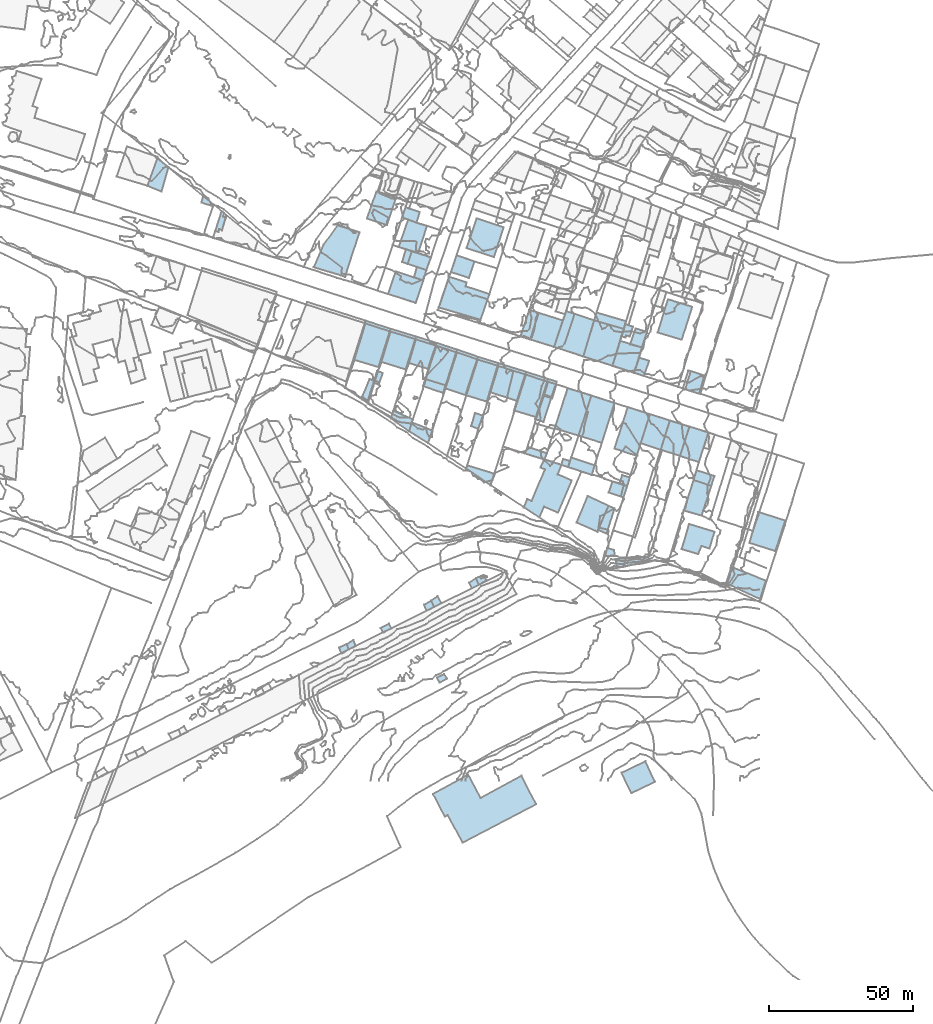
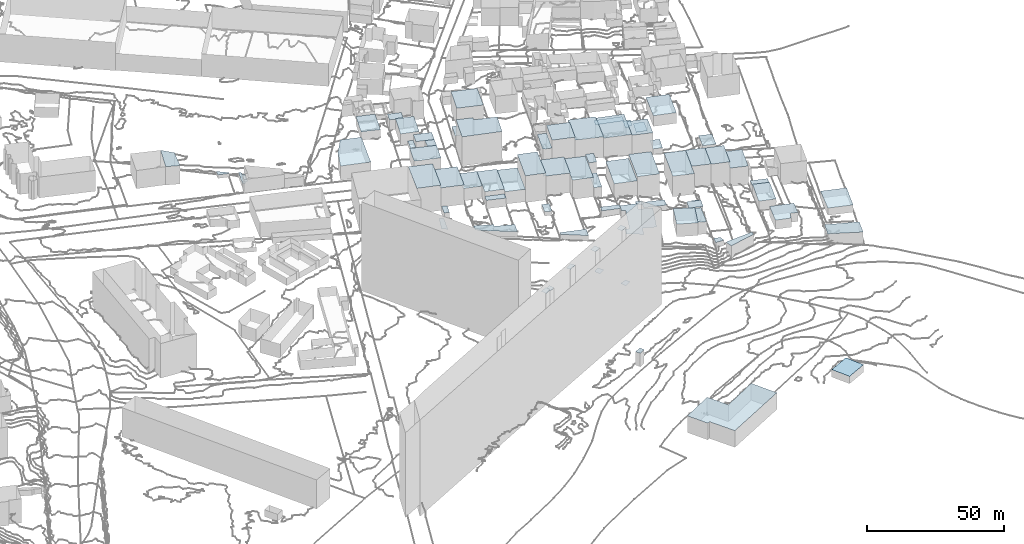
# Not in any storey, part 76 of 419: 72 roofs.
"""IFC2X3 model written with IfcOpenShell, lengths in metres."""

from ifc_helpers import new_model, si_unit, frame, origin_with_axes, place, context, subcontext, project, faceted_brep, element, save


model = new_model("IFC2X3")

# Units and contexts
model_context = context("Model", 3, precision=1e-05, world=origin_with_axes())
body_context = subcontext(model_context, "Body", "Model", "MODEL_VIEW")
ifc_project = project(units=[si_unit("AREAUNIT", "SQUARE_METRE"), si_unit("LENGTHUNIT", "METRE")], contexts=[model_context])

# Roofs
roof_1_placement = place(None, frame((922.9920204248, 76.0976909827, 71.5996003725), z_axis=(0.0, 0.0, 1.0), x_axis=(1.0, 0.0, 0.0)))
element("IfcRoof", 1, at=roof_1_placement, Name="Toiture 0", ShapeType="NOTDEFINED", context=body_context, shape_type="Brep", body=[
    faceted_brep([(0.7999999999, 2.7999999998, 2.4003996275), (0.0, 0.0, 2.4003996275), (3.4, 0.0, 2.4003996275), (3.2, 2.0999999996, 2.4003996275)], [[[0, 1, 2]], [[2, 3, 0]]]),
])
roof_2_placement = place(None, frame((928.6920204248, 152.1976909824, 73.6711987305), z_axis=(0.0, 0.0, 1.0), x_axis=(1.0, 0.0, 0.0)))
element("IfcRoof", 2, at=roof_2_placement, Name="Toiture 0", ShapeType="NOTDEFINED", context=body_context, shape_type="Brep", body=[
    faceted_brep([(0.9, 2.5, 3.5288012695), (0.0, 0.0, 3.5288012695), (1.5, -0.3999999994, 3.5288012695), (1.7000000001, 0.2999999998, 3.5288012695), (2.9, 0.0, 3.5288012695), (4.0, 3.2999999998, 3.5288012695), (1.3, 4.2000000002, 3.5288012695)], [[[0, 1, 2]], [[3, 4, 5]], [[5, 6, 0]], [[0, 2, 3]], [[3, 5, 0]]]),
])
roof_3_placement = place(None, frame((852.7920204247, 193.2976909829, 77.9876005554), z_axis=(0.0, 0.0, 1.0), x_axis=(1.0, 0.0, 0.0)))
element("IfcRoof", 3, at=roof_3_placement, Name="Toiture 0", ShapeType="NOTDEFINED", context=body_context, shape_type="Brep", body=[
    faceted_brep([(2.4, 3.0999999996, 4.4123994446), (1.2000000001, 3.5999999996, 4.4123994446), (0.0, 0.0, 4.4123994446), (4.9, -1.8000000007, 4.4123994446), (6.1000000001, 1.8999999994, 4.4123994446)], [[[0, 1, 2]], [[2, 3, 4]], [[4, 0, 2]]]),
])
roof_4_placement = place(None, frame((845.3920204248, 143.3976909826, 76.161000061), z_axis=(0.0, 0.0, 1.0), x_axis=(1.0, 0.0, 0.0)))
element("IfcRoof", 4, at=roof_4_placement, Name="Toiture 0", ShapeType="NOTDEFINED", context=body_context, shape_type="Brep", body=[
    faceted_brep([(0.0, 0.0, 8.638999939), (8.6, -2.7000000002, 8.638999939), (12.2, 8.7000000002, 8.638999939), (3.3999999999, 11.4000000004, 8.638999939)], [[[0, 1, 2]], [[2, 3, 0]]]),
])
roof_5_placement = place(None, frame((864.8920204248, 34.0976909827, 65.1509995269), z_axis=(0.0, 0.0, 1.0), x_axis=(1.0, 0.0, 0.0)))
element("IfcRoof", 5, at=roof_5_placement, Name="Toiture 0", ShapeType="NOTDEFINED", context=body_context, shape_type="Brep", body=[
    faceted_brep([(0.8999999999, -1.7999999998, 6.0), (3.3999999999, -0.4000000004, 6.0), (2.5, 1.2000000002, 6.0), (0.0, 0.0, 6.0)], [[[0, 1, 2]], [[2, 3, 0]]]),
])
roof_6_placement = place(None, frame((926.2920204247, 113.2976909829, 70.8120025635), z_axis=(0.0, 0.0, 1.0), x_axis=(1.0, 0.0, 0.0)))
element("IfcRoof", 6, at=roof_6_placement, Name="Toiture 0", ShapeType="NOTDEFINED", context=body_context, shape_type="Brep", body=[
    faceted_brep([(7.7000000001, -2.5, 9.1879974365), (12.3, 11.8999999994, 9.1879974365), (4.6000000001, 14.3999999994, 9.1879974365), (0.0, 0.0, 9.1879974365)], [[[0, 1, 2]], [[2, 3, 0]]]),
])
roof_7_placement = place(None, frame((941.2920204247, 153.4976909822, 72.6200027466), z_axis=(0.0, 0.0, 1.0), x_axis=(1.0, 0.0, 0.0)))
element("IfcRoof", 7, at=roof_7_placement, Name="Toiture 0", ShapeType="NOTDEFINED", context=body_context, shape_type="Brep", body=[
    faceted_brep([(0.0, 0.0, 4.7799972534), (8.3, -2.5, 4.7799972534), (11.9, 8.9000000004, 4.7799972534), (3.5, 11.5, 4.7799972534)], [[[0, 1, 2]], [[2, 3, 0]]]),
])
roof_8_placement = place(None, frame((874.6920204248, 131.7976909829, 75.0439979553), z_axis=(0.0, 0.0, 1.0), x_axis=(1.0, 0.0, 0.0)))
element("IfcRoof", 8, at=roof_8_placement, Name="Toiture 0", ShapeType="NOTDEFINED", context=body_context, shape_type="Brep", body=[
    faceted_brep([(4.3, 13.2999999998, 11.9560020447), (0.0, 0.0, 11.9560020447), (7.4, -2.2000000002, 11.9560020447), (11.4, 11.0999999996, 11.9560020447)], [[[0, 1, 2]], [[2, 3, 0]]]),
])
roof_9_placement = place(None, frame((854.7920204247, 142.9976909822, 75.9445007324), z_axis=(0.0, 0.0, 1.0), x_axis=(1.0, 0.0, 0.0)))
element("IfcRoof", 9, at=roof_9_placement, Name="Toiture 0", ShapeType="NOTDEFINED", context=body_context, shape_type="Brep", body=[
    faceted_brep([(6.9, -2.0999999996, 5.5554992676), (9.9, 6.9000000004, 5.5554992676), (2.8, 9.1000000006, 5.5554992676), (0.0, 0.0, 5.5554992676)], [[[0, 1, 2]], [[2, 3, 0]]]),
])
roof_10_placement = place(None, frame((851.5920204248, 183.0976909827, 77.6009994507), z_axis=(0.0, 0.0, 1.0), x_axis=(1.0, 0.0, 0.0)))
element("IfcRoof", 10, at=roof_10_placement, Name="Toiture 0", ShapeType="NOTDEFINED", context=body_context, shape_type="Brep", body=[
    faceted_brep([(6.1, 8.3999999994, 5.0990005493), (3.3, 9.5, 5.0990005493), (0.0, 0.0, 5.0990005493), (6.7, -2.0, 5.0990005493), (9.8, 7.2999999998, 5.0990005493)], [[[0, 1, 2]], [[2, 3, 4]], [[4, 0, 2]]]),
])
roof_11_placement = place(None, frame((905.3920204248, 148.4976909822, 73.1300024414), z_axis=(0.0, 0.0, 1.0), x_axis=(1.0, 0.0, 0.0)))
element("IfcRoof", 11, at=roof_11_placement, Name="Toiture 0", ShapeType="NOTDEFINED", context=body_context, shape_type="Brep", body=[
    faceted_brep([(4.2, 12.4000000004, 8.9699975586), (3.7999999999, 11.3000000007, 8.9699975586), (0.0, 0.0, 8.9699975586), (10.1, -3.2999999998, 8.9699975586), (13.8999999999, 9.2000000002, 8.9699975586)], [[[0, 1, 2]], [[2, 3, 4]], [[4, 0, 2]]]),
])
roof_12_placement = place(None, frame((856.8920204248, 172.5976909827, 76.904000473), z_axis=(0.0, 0.0, 1.0), x_axis=(1.0, 0.0, 0.0)))
element("IfcRoof", 12, at=roof_12_placement, Name="Toiture 0", ShapeType="NOTDEFINED", context=body_context, shape_type="Brep", body=[
    faceted_brep([(0.0, 0.0, 4.795999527), (3.2, -1.1000000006, 4.795999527), (4.2999999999, 2.5, 4.795999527), (1.0, 3.5999999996, 4.795999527)], [[[0, 1, 2]], [[2, 3, 0]]]),
])
roof_13_placement = place(None, frame((878.3920204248, 68.4976909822, 69.0483990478), z_axis=(0.0, 0.0, 1.0), x_axis=(1.0, 0.0, 0.0)))
element("IfcRoof", 13, at=roof_13_placement, Name="Toiture 0", ShapeType="NOTDEFINED", context=body_context, shape_type="Brep", body=[
    faceted_brep([(1.0, -2.2999999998, 6.9516009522), (3.6, -0.6999999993, 6.9516009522), (2.6, 1.1000000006, 6.9516009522), (0.0, 0.0, 6.9516009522)], [[[0, 1, 2]], [[2, 3, 0]]]),
])
roof_14_placement = place(None, frame((907.8920204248, 107.6976909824, 73.5280007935), z_axis=(0.0, 0.0, 1.0), x_axis=(1.0, 0.0, 0.0)))
element("IfcRoof", 14, at=roof_14_placement, Name="Toiture 0", ShapeType="NOTDEFINED", context=body_context, shape_type="Brep", body=[
    faceted_brep([(0.0, 0.0, 3.4719992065), (2.3999999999, -0.7999999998, 3.4719992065), (3.0, 1.2999999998, 3.4719992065), (0.6, 2.0, 3.4719992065)], [[[0, 1, 2]], [[2, 3, 0]]]),
])
roof_15_placement = place(None, frame((833.6920204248, 45.6976909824, 69.3569992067), z_axis=(0.0, 0.0, 1.0), x_axis=(1.0, 0.0, 0.0)))
element("IfcRoof", 15, at=roof_15_placement, Name="Toiture 0", ShapeType="NOTDEFINED", context=body_context, shape_type="Brep", body=[
    faceted_brep([(0.0, 0.0, 33.6430007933), (0.6, -1.8999999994, 33.6430007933), (3.0, -0.7999999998, 33.6430007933), (2.3, 1.4000000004, 33.6430007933)], [[[0, 1, 2]], [[2, 3, 0]]]),
])
roof_16_placement = place(None, frame((928.6920204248, 1.0976909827, 57.486000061), z_axis=(0.0, 0.0, 1.0), x_axis=(1.0, 0.0, 0.0)))
element("IfcRoof", 16, at=roof_16_placement, Name="Toiture 0", ShapeType="NOTDEFINED", context=body_context, shape_type="Brep", body=[
    faceted_brep([(3.5, -7.0, 3.313999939), (11.6, -3.1000000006, 3.313999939), (8.3, 4.0, 3.313999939), (0.0, 0.0, 3.313999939)], [[[0, 1, 2]], [[2, 3, 0]]]),
])
roof_17_placement = place(None, frame((859.9920204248, 134.8976909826, 75.5856011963), z_axis=(0.0, 0.0, 1.0), x_axis=(1.0, 0.0, 0.0)))
element("IfcRoof", 17, at=roof_17_placement, Name="Toiture 0", ShapeType="NOTDEFINED", context=body_context, shape_type="Brep", body=[
    faceted_brep([(7.0, -2.2999999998, 3.7143988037), (7.5, -0.7000000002, 3.7143988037), (7.7999999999, 0.2999999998, 3.7143988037), (0.7999999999, 2.5, 3.7143988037), (0.0, 0.0, 3.7143988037)], [[[0, 1, 2]], [[2, 3, 4]], [[4, 0, 2]]]),
])
roof_18_placement = place(None, frame((910.2920204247, 106.8976909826, 73.0340019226), z_axis=(0.0, 0.0, 1.0), x_axis=(1.0, 0.0, 0.0)))
element("IfcRoof", 18, at=roof_18_placement, Name="Toiture 0", ShapeType="NOTDEFINED", context=body_context, shape_type="Brep", body=[
    faceted_brep([(0.0, 0.0, 2.3659980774), (4.5, -1.5, 2.3659980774), (8.2000000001, -2.7000000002, 2.3659980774), (9.1000000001, 0.5999999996, 2.3659980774), (1.0, 3.2999999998, 2.3659980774)], [[[0, 1, 2]], [[2, 3, 4]], [[4, 0, 2]]]),
])
roof_19_placement = place(None, frame((848.8920204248, 123.6976909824, 74.2920004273), z_axis=(0.0, 0.0, 1.0), x_axis=(1.0, 0.0, 0.0)))
element("IfcRoof", 19, at=roof_19_placement, Name="Toiture 0", ShapeType="NOTDEFINED", context=body_context, shape_type="Brep", body=[
    faceted_brep([(0.0, 0.0, 2.4079995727), (6.2999999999, -4.3999999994, 2.4079995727), (12.8999999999, -8.5, 2.4079995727), (14.2999999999, -4.0999999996, 2.4079995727), (7.2, -1.2999999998, 2.4079995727), (7.6, -0.2999999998, 2.4079995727), (0.7999999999, 2.7000000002, 2.4079995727)], [[[0, 1, 2]], [[2, 3, 4]], [[4, 5, 6]], [[6, 0, 2]], [[2, 4, 6]]]),
])
roof_20_placement = place(None, frame((838.9920204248, 131.2976909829, 75.15), z_axis=(0.0, 0.0, 1.0), x_axis=(1.0, 0.0, 0.0)))
element("IfcRoof", 20, at=roof_20_placement, Name="Toiture 0", ShapeType="NOTDEFINED", context=body_context, shape_type="Brep", body=[
    faceted_brep([(0.0, 0.0, 0.95), (1.9, -1.4000000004, 0.95), (4.1, 5.5, 0.95), (2.5, 6.0999999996, 0.95)], [[[0, 1, 2]], [[2, 3, 0]]]),
])
roof_21_placement = place(None, frame((953.6920204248, 102.3976909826, 68.6312010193), z_axis=(0.0, 0.0, 1.0), x_axis=(1.0, 0.0, 0.0)))
element("IfcRoof", 21, at=roof_21_placement, Name="Toiture 0", ShapeType="NOTDEFINED", context=body_context, shape_type="Brep", body=[
    faceted_brep([(7.2000000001, 1.4000000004, 3.9687989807), (1.0, 3.4000000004, 3.9687989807), (0.0, 0.0, 3.9687989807), (6.1, -2.0, 3.9687989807)], [[[0, 1, 2]], [[2, 3, 0]]]),
])
roof_22_placement = place(None, frame((901.6920204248, 132.0976909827, 73.565098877), z_axis=(0.0, 0.0, 1.0), x_axis=(1.0, 0.0, 0.0)))
element("IfcRoof", 22, at=roof_22_placement, Name="Toiture 0", ShapeType="NOTDEFINED", context=body_context, shape_type="Brep", body=[
    faceted_brep([(2.8, -0.9000000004, 9.634901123), (4.6, 4.3999999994, 9.634901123), (1.6, 5.2999999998, 9.634901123), (0.0, 0.0, 9.634901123)], [[[0, 1, 2]], [[2, 3, 0]]]),
])
roof_23_placement = place(None, frame((874.8920204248, 106.3976909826, 73.9040000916), z_axis=(0.0, 0.0, 1.0), x_axis=(1.0, 0.0, 0.0)))
element("IfcRoof", 23, at=roof_23_placement, Name="Toiture 0", ShapeType="NOTDEFINED", context=body_context, shape_type="Brep", body=[
    faceted_brep([(0.0, 0.0, 2.2959999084), (8.5, -5.7999999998, 2.2959999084), (9.7999999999, -1.7999999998, 2.2959999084), (0.3999999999, 1.0999999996, 2.2959999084)], [[[0, 1, 2]], [[2, 3, 0]]]),
])
roof_24_placement = place(None, frame((845.3920204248, 51.1976909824, 69.2899986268), z_axis=(0.0, 0.0, 1.0), x_axis=(1.0, 0.0, 0.0)))
element("IfcRoof", 24, at=roof_24_placement, Name="Toiture 0", ShapeType="NOTDEFINED", context=body_context, shape_type="Brep", body=[
    faceted_brep([(0.8999999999, -1.5, 35.7100013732), (3.7999999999, -0.0999999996, 35.7100013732), (2.7999999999, 1.5, 35.7100013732), (0.0, 0.0, 35.7100013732)], [[[0, 1, 2]], [[2, 3, 0]]]),
])
roof_25_placement = place(None, frame((883.0920204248, 132.8976909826, 74.5310005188), z_axis=(0.0, 0.0, 1.0), x_axis=(1.0, 0.0, 0.0)))
element("IfcRoof", 25, at=roof_25_placement, Name="Toiture 0", ShapeType="NOTDEFINED", context=body_context, shape_type="Brep", body=[
    faceted_brep([(9.4, -3.0999999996, 8.6689994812), (12.6, 7.0, 8.6689994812), (3.0, 10.0, 8.6689994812), (0.0, 0.0, 8.6689994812)], [[[0, 1, 2]], [[2, 3, 0]]]),
])
roof_26_placement = place(None, frame((847.8920204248, 166.7976909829, 76.3241984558), z_axis=(0.0, 0.0, 1.0), x_axis=(1.0, 0.0, 0.0)))
element("IfcRoof", 26, at=roof_26_placement, Name="Toiture 0", ShapeType="NOTDEFINED", context=body_context, shape_type="Brep", body=[
    faceted_brep([(2.7, 7.8999999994, 5.3758015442), (0.0, 0.0, 5.3758015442), (9.6, -3.0, 5.3758015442), (12.2, 4.6999999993, 5.3758015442)], [[[0, 1, 2]], [[2, 3, 0]]]),
])
roof_27_placement = place(None, frame((925.5920204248, 141.9976909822, 71.6450004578), z_axis=(0.0, 0.0, 1.0), x_axis=(1.0, 0.0, 0.0)))
element("IfcRoof", 27, at=roof_27_placement, Name="Toiture 0", ShapeType="NOTDEFINED", context=body_context, shape_type="Brep", body=[
    faceted_brep([(2.6, 8.6000000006, 9.4549995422), (0.0, 0.0, 9.4549995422), (7.5, -2.3999999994, 9.4549995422), (10.2, 6.3000000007, 9.4549995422)], [[[0, 1, 2]], [[2, 3, 0]]]),
])
roof_28_placement = place(None, frame((913.1920204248, 87.6976909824, 73.0757994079), z_axis=(0.0, 0.0, 1.0), x_axis=(1.0, 0.0, 0.0)))
element("IfcRoof", 28, at=roof_28_placement, Name="Toiture 0", ShapeType="NOTDEFINED", context=body_context, shape_type="Brep", body=[
    faceted_brep([(7.2000000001, -3.2000000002, 5.6242005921), (11.0, 5.7999999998, 5.6242005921), (3.8, 9.2000000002, 5.6242005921), (0.0, 0.0, 5.6242005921)], [[[0, 1, 2]], [[2, 3, 0]]]),
])
roof_29_placement = place(None, frame((876.6920204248, 121.0976909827, 74.9028998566), z_axis=(0.0, 0.0, 1.0), x_axis=(1.0, 0.0, 0.0)))
element("IfcRoof", 29, at=roof_29_placement, Name="Toiture 0", ShapeType="NOTDEFINED", context=body_context, shape_type="Brep", body=[
    faceted_brep([(0.0, 0.0, 1.8971001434), (2.4, -1.0, 1.8971001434), (4.0, 3.5999999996, 1.8971001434), (1.3, 4.5, 1.8971001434)], [[[0, 1, 2]], [[2, 3, 0]]]),
])
roof_30_placement = place(None, frame((862.8920204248, 60.6976909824, 69.4219978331), z_axis=(0.0, 0.0, 1.0), x_axis=(1.0, 0.0, 0.0)))
element("IfcRoof", 30, at=roof_30_placement, Name="Toiture 0", ShapeType="NOTDEFINED", context=body_context, shape_type="Brep", body=[
    faceted_brep([(0.0, 0.0, 22.0780021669), (1.0, -2.2000000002, 22.0780021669), (3.5, -0.7999999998, 22.0780021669), (2.2, 1.5, 22.0780021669)], [[[0, 1, 2]], [[2, 3, 0]]]),
])
roof_31_placement = place(None, frame((830.9920204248, 44.4976909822, 69.3569992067), z_axis=(0.0, 0.0, 1.0), x_axis=(1.0, 0.0, 0.0)))
element("IfcRoof", 31, at=roof_31_placement, Name="Toiture 0", ShapeType="NOTDEFINED", context=body_context, shape_type="Brep", body=[
    faceted_brep([(0.7999999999, -2.1999999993, 34.3430007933), (3.2999999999, -0.6999999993, 34.3430007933), (2.7, 1.2000000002, 34.3430007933), (0.0, 0.0, 34.3430007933)], [[[0, 1, 2]], [[2, 3, 0]]]),
])
roof_32_placement = place(None, frame((927.9920204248, 101.2976909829, 72.4149993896), z_axis=(0.0, 0.0, 1.0), x_axis=(1.0, 0.0, 0.0)))
element("IfcRoof", 32, at=roof_32_placement, Name="Toiture 0", ShapeType="NOTDEFINED", context=body_context, shape_type="Brep", body=[
    faceted_brep([(2.7, -1.0, 1.2850006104), (3.6, 2.0, 1.2850006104), (1.0, 2.7999999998, 1.2850006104), (0.0, 0.0, 1.2850006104)], [[[0, 1, 2]], [[2, 3, 0]]]),
])
roof_33_placement = place(None, frame((875.9920204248, 66.8976909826, 69.0483990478), z_axis=(0.0, 0.0, 1.0), x_axis=(1.0, 0.0, 0.0)))
element("IfcRoof", 33, at=roof_33_placement, Name="Toiture 0", ShapeType="NOTDEFINED", context=body_context, shape_type="Brep", body=[
    faceted_brep([(1.0, -1.9000000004, 33.1516009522), (3.4, -0.7000000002, 33.1516009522), (2.4, 1.5999999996, 33.1516009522), (0.0, 0.0, 33.1516009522)], [[[0, 1, 2]], [[2, 3, 0]]]),
])
roof_34_placement = place(None, frame((842.8920204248, 135.9976909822, 75.8583978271), z_axis=(0.0, 0.0, 1.0), x_axis=(1.0, 0.0, 0.0)))
element("IfcRoof", 34, at=roof_34_placement, Name="Toiture 0", ShapeType="NOTDEFINED", context=body_context, shape_type="Brep", body=[
    faceted_brep([(1.2, 4.2000000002, 3.1416021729), (0.2, 0.8000000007, 3.1416021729), (0.0, 0.0, 3.1416021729), (1.7999999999, -0.5, 3.1416021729), (3.2, 3.5, 3.1416021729)], [[[0, 1, 2]], [[2, 3, 4]], [[4, 0, 2]]]),
])
roof_35_placement = place(None, frame((924.2920204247, 98.0976909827, 72.6780975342), z_axis=(0.0, 0.0, 1.0), x_axis=(1.0, 0.0, 0.0)))
element("IfcRoof", 35, at=roof_35_placement, Name="Toiture 0", ShapeType="NOTDEFINED", context=body_context, shape_type="Brep", body=[
    faceted_brep([(5.1000000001, -1.7000000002, 3.0219024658), (6.4, 2.2000000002, 3.0219024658), (1.3, 3.7999999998, 3.0219024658), (0.0, 0.0, 3.0219024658)], [[[0, 1, 2]], [[2, 3, 0]]]),
])
roof_36_placement = place(None, frame((972.9920204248, 80.6976909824, 65.9680023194), z_axis=(0.0, 0.0, 1.0), x_axis=(1.0, 0.0, 0.0)))
element("IfcRoof", 36, at=roof_36_placement, Name="Toiture 0", ShapeType="NOTDEFINED", context=body_context, shape_type="Brep", body=[
    faceted_brep([(0.0, 0.0, 3.2319976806), (9.0, -2.8999999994, 3.2319976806), (12.4, 7.7000000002, 3.2319976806), (3.1, 10.7000000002, 3.2319976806)], [[[0, 1, 2]], [[2, 3, 0]]]),
])
roof_37_placement = place(None, frame((788.0920204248, 188.6976909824, 77.1070014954), z_axis=(0.0, 0.0, 1.0), x_axis=(1.0, 0.0, 0.0)))
element("IfcRoof", 37, at=roof_37_placement, Name="Toiture 0", ShapeType="NOTDEFINED", context=body_context, shape_type="Brep", body=[
    faceted_brep([(2.2, 6.7999999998, 2.2929985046), (0.0, 0.0, 2.2929985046), (1.1, -0.3999999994, 2.2929985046), (1.4, 0.6000000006, 2.2929985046), (2.3, 0.2000000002, 2.2929985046), (3.7, 4.7000000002, 2.2929985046), (2.7, 4.9000000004, 2.2929985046), (3.1, 6.1000000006, 2.2929985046)], [[[0, 1, 2]], [[3, 4, 5]], [[6, 7, 0]], [[0, 2, 3]], [[3, 5, 6]], [[6, 0, 3]]]),
])
roof_38_placement = place(None, frame((895.2920204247, 111.5976909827, 73.6999996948), z_axis=(0.0, 0.0, 1.0), x_axis=(1.0, 0.0, 0.0)))
element("IfcRoof", 38, at=roof_38_placement, Name="Toiture 0", ShapeType="NOTDEFINED", context=body_context, shape_type="Brep", body=[
    faceted_brep([(0.0, 0.0, 2.7000003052), (6.8, -2.1000000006, 2.7000003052), (7.6000000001, 0.0999999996, 2.7000003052), (0.9, 2.2999999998, 2.7000003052)], [[[0, 1, 2]], [[2, 3, 0]]]),
])
roof_39_placement = place(None, frame((893.7920204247, 152.0976909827, 74.7480007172), z_axis=(0.0, 0.0, 1.0), x_axis=(1.0, 0.0, 0.0)))
element("IfcRoof", 39, at=roof_39_placement, Name="Toiture 0", ShapeType="NOTDEFINED", context=body_context, shape_type="Brep", body=[
    faceted_brep([(6.3, 8.2000000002, 5.1519992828), (3.0, 9.2000000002, 5.1519992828), (0.0, 0.0, 5.1519992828), (3.3, -1.0, 5.1519992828)], [[[0, 1, 2]], [[2, 3, 0]]]),
])
roof_40_placement = place(None, frame((863.4920204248, -6.2023090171, 59.9319992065), z_axis=(0.0, 0.0, 1.0), x_axis=(1.0, 0.0, 0.0)))
element("IfcRoof", 40, at=roof_40_placement, Name="Toiture 0", ShapeType="NOTDEFINED", context=body_context, shape_type="Brep", body=[
    faceted_brep([(10.2999999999, -16.9000000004, 7.4680007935), (35.7, -3.6000000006, 7.4680007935), (30.6, 6.2999999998, 7.4680007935), (16.5, -1.4000000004, 7.4680007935), (12.2, 6.6999999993, 7.4680007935), (0.0, 0.0, 7.4680007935), (4.1, -7.8000000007, 7.4680007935), (5.1, -7.3000000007, 7.4680007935)], [[[0, 1, 2]], [[3, 4, 5]], [[5, 6, 7]], [[0, 2, 3]], [[3, 5, 7]], [[7, 0, 3]]]),
])
roof_41_placement = place(None, frame((764.5920204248, 204.2976909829, 77.4841980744), z_axis=(0.0, 0.0, 1.0), x_axis=(1.0, 0.0, 0.0)))
element("IfcRoof", 41, at=roof_41_placement, Name="Toiture 0", ShapeType="NOTDEFINED", context=body_context, shape_type="Brep", body=[
    faceted_brep([(7.2, 6.0999999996, 8.2158019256), (3.6, 10.0, 8.2158019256), (0.0, 0.0, 8.2158019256), (4.9, -2.0, 8.2158019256)], [[[0, 1, 2]], [[2, 3, 0]]]),
])
roof_42_placement = place(None, frame((783.2920204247, 198.4976909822, 77.4196013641), z_axis=(0.0, 0.0, 1.0), x_axis=(1.0, 0.0, 0.0)))
element("IfcRoof", 42, at=roof_42_placement, Name="Toiture 0", ShapeType="NOTDEFINED", context=body_context, shape_type="Brep", body=[
    faceted_brep([(0.0, 0.0, 1.5803986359), (4.0, -1.2999999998, 1.5803986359), (4.2000000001, -0.6999999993, 1.5803986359), (0.6000000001, 2.2000000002, 1.5803986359)], [[[0, 1, 2]], [[2, 3, 0]]]),
])
roof_43_placement = place(None, frame((875.0920204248, 182.6976909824, 77.83099823), z_axis=(0.0, 0.0, 1.0), x_axis=(1.0, 0.0, 0.0)))
element("IfcRoof", 43, at=roof_43_placement, Name="Toiture 0", ShapeType="NOTDEFINED", context=body_context, shape_type="Brep", body=[
    faceted_brep([(3.5, 10.2999999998, 8.36900177), (0.0, 0.0, 8.36900177), (9.5, -3.0999999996, 8.36900177), (12.8, 7.2000000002, 8.36900177)], [[[0, 1, 2]], [[2, 3, 0]]]),
])
roof_44_placement = place(None, frame((869.6920204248, 174.3976909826, 77.1950019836), z_axis=(0.0, 0.0, 1.0), x_axis=(1.0, 0.0, 0.0)))
element("IfcRoof", 44, at=roof_44_placement, Name="Toiture 0", ShapeType="NOTDEFINED", context=body_context, shape_type="Brep", body=[
    faceted_brep([(8.1, 3.7000000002, 3.6049980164), (1.9, 5.7999999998, 3.6049980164), (0.0, 0.0, 3.6049980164), (6.2000000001, -2.0, 3.6049980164)], [[[0, 1, 2]], [[2, 3, 0]]]),
])
roof_45_placement = place(None, frame((964.8920204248, 66.6976909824, 64.0479988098), z_axis=(0.0, 0.0, 1.0), x_axis=(1.0, 0.0, 0.0)))
element("IfcRoof", 45, at=roof_45_placement, Name="Toiture 0", ShapeType="NOTDEFINED", context=body_context, shape_type="Brep", body=[
    faceted_brep([(12.2999999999, -3.8999999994, 4.9520011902), (13.7999999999, 0.9000000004, 4.9520011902), (1.8999999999, 5.6000000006, 4.9520011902), (0.0, 0.0, 4.9520011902), (11.7999999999, -5.5, 4.9520011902)], [[[0, 1, 2]], [[2, 3, 4]], [[4, 0, 2]]]),
])
roof_46_placement = place(None, frame((949.5920204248, 78.4976909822, 69.2433996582), z_axis=(0.0, 0.0, 1.0), x_axis=(1.0, 0.0, 0.0)))
element("IfcRoof", 46, at=roof_46_placement, Name="Toiture 0", ShapeType="NOTDEFINED", context=body_context, shape_type="Brep", body=[
    faceted_brep([(11.3, 6.0, 4.0566003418), (2.5, 8.7000000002, 4.0566003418), (0.0, 0.0, 4.0566003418), (5.7, -1.6999999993, 4.0566003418), (6.8, 1.1000000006, 4.0566003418), (9.6, 0.2000000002, 4.0566003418)], [[[0, 1, 2]], [[2, 3, 4]], [[4, 5, 0]], [[0, 2, 4]]]),
])
roof_47_placement = place(None, frame((948.9920204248, 110.7976909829, 68.9369995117), z_axis=(0.0, 0.0, 1.0), x_axis=(1.0, 0.0, 0.0)))
element("IfcRoof", 47, at=roof_47_placement, Name="Toiture 0", ShapeType="NOTDEFINED", context=body_context, shape_type="Brep", body=[
    faceted_brep([(0.0, 0.0, 8.2630004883), (1.1, -0.4000000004, 8.2630004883), (6.5, -2.2000000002, 8.2630004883), (9.7999999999, 8.0999999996, 8.2630004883), (3.2999999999, 10.0999999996, 8.2630004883)], [[[0, 1, 2]], [[2, 3, 4]], [[4, 0, 2]]]),
])
roof_48_placement = place(None, frame((950.2920204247, 91.8976909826, 68.7280014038), z_axis=(0.0, 0.0, 1.0), x_axis=(1.0, 0.0, 0.0)))
element("IfcRoof", 48, at=roof_48_placement, Name="Toiture 0", ShapeType="NOTDEFINED", context=body_context, shape_type="Brep", body=[
    faceted_brep([(0.0, 0.0, 4.6719985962), (6.2000000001, -1.7999999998, 4.6719985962), (9.5, 8.5, 4.6719985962), (3.4, 10.5, 4.6719985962)], [[[0, 1, 2]], [[2, 3, 0]]]),
])
roof_49_placement = place(None, frame((950.7920204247, 133.7976909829, 69.5340026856), z_axis=(0.0, 0.0, 1.0), x_axis=(1.0, 0.0, 0.0)))
element("IfcRoof", 49, at=roof_49_placement, Name="Toiture 0", ShapeType="NOTDEFINED", context=body_context, shape_type="Brep", body=[
    faceted_brep([(1.9, 6.3999999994, 3.0659973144), (0.0, 0.0, 3.0659973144), (4.8, -1.5, 3.0659973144), (6.6000000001, 4.6999999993, 3.0659973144)], [[[0, 1, 2]], [[2, 3, 0]]]),
])
roof_50_placement = place(None, frame((919.2920204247, 157.6976909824, 73.8568984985), z_axis=(0.0, 0.0, 1.0), x_axis=(1.0, 0.0, 0.0)))
element("IfcRoof", 50, at=roof_50_placement, Name="Toiture 0", ShapeType="NOTDEFINED", context=body_context, shape_type="Brep", body=[
    faceted_brep([(0.8, 2.7000000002, 4.6431015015), (0.0, 0.0, 4.6431015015), (10.3, -3.0, 4.6431015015), (11.0, -0.2999999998, 4.6431015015)], [[[0, 1, 2]], [[2, 3, 0]]]),
])
roof_51_placement = place(None, frame((860.3920204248, 59.2976909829, 69.4219978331), z_axis=(0.0, 0.0, 1.0), x_axis=(1.0, 0.0, 0.0)))
element("IfcRoof", 51, at=roof_51_placement, Name="Toiture 0", ShapeType="NOTDEFINED", context=body_context, shape_type="Brep", body=[
    faceted_brep([(0.8999999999, -2.1000000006, 33.5780021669), (3.5, -0.8000000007, 33.5780021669), (2.5, 1.3999999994, 33.5780021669), (0.0, 0.0, 33.5780021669)], [[[0, 1, 2]], [[2, 3, 0]]]),
])
roof_52_placement = place(None, frame((852.7920204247, 177.8976909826, 77.2629989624), z_axis=(0.0, 0.0, 1.0), x_axis=(1.0, 0.0, 0.0)))
element("IfcRoof", 52, at=roof_52_placement, Name="Toiture 0", ShapeType="NOTDEFINED", context=body_context, shape_type="Brep", body=[
    faceted_brep([(3.3, 3.7000000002, 1.9370010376), (1.3, 4.4000000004, 1.9370010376), (0.0, 0.0, 1.9370010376), (1.9, -0.5999999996, 1.9370010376)], [[[0, 1, 2]], [[2, 3, 0]]]),
])
roof_53_placement = place(None, frame((931.6920204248, 149.3976909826, 72.983201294), z_axis=(0.0, 0.0, 1.0), x_axis=(1.0, 0.0, 0.0)))
element("IfcRoof", 53, at=roof_53_placement, Name="Toiture 0", ShapeType="NOTDEFINED", context=body_context, shape_type="Brep", body=[
    faceted_brep([(1.9, 5.5, 2.816798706), (0.0, 0.0, 2.816798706), (4.1, -1.0999999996, 2.816798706), (5.8, 4.2999999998, 2.816798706)], [[[0, 1, 2]], [[2, 3, 0]]]),
])
roof_54_placement = place(None, frame((920.5920204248, 85.0976909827, 73.0299987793), z_axis=(0.0, 0.0, 1.0), x_axis=(1.0, 0.0, 0.0)))
element("IfcRoof", 54, at=roof_54_placement, Name="Toiture 0", ShapeType="NOTDEFINED", context=body_context, shape_type="Brep", body=[
    faceted_brep([(3.0, -1.2000000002, 5.4700012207), (5.7, 7.5, 5.4700012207), (3.6, 8.3999999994, 5.4700012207), (0.0, 0.0, 5.4700012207)], [[[0, 1, 2]], [[2, 3, 0]]]),
])
roof_55_placement = place(None, frame((898.8920204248, 123.4976909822, 73.7474008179), z_axis=(0.0, 0.0, 1.0), x_axis=(1.0, 0.0, 0.0)))
element("IfcRoof", 55, at=roof_55_placement, Name="Toiture 0", ShapeType="NOTDEFINED", context=body_context, shape_type="Brep", body=[
    faceted_brep([(2.7999999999, 8.6000000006, 4.5525991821), (0.0, 0.0, 4.5525991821), (2.7999999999, -0.8999999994, 4.5525991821), (5.6, 7.7000000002, 4.5525991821)], [[[0, 1, 2]], [[2, 3, 0]]]),
])
roof_56_placement = place(None, frame((913.8920204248, 117.7976909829, 71.851099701), z_axis=(0.0, 0.0, 1.0), x_axis=(1.0, 0.0, 0.0)))
element("IfcRoof", 56, at=roof_56_placement, Name="Toiture 0", ShapeType="NOTDEFINED", context=body_context, shape_type="Brep", body=[
    faceted_brep([(8.0, -2.5, 9.548900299), (12.3999999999, 11.2999999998, 9.548900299), (4.3999999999, 13.8999999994, 9.548900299), (0.0, 0.0, 9.548900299)], [[[0, 1, 2]], [[2, 3, 0]]]),
])
roof_57_placement = place(None, frame((905.5920204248, 120.2976909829, 72.7897001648), z_axis=(0.0, 0.0, 1.0), x_axis=(1.0, 0.0, 0.0)))
element("IfcRoof", 57, at=roof_57_placement, Name="Toiture 0", ShapeType="NOTDEFINED", context=body_context, shape_type="Brep", body=[
    faceted_brep([(8.3, -2.5, 6.8102998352), (12.7, 11.3999999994, 6.8102998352), (4.5, 13.8999999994, 6.8102998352), (0.0, 0.0, 6.8102998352)], [[[0, 1, 2]], [[2, 3, 0]]]),
])
roof_58_placement = place(None, frame((894.8920204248, 92.9976909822, 73.3090026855), z_axis=(0.0, 0.0, 1.0), x_axis=(1.0, 0.0, 0.0)))
element("IfcRoof", 58, at=roof_58_placement, Name="Toiture 0", ShapeType="NOTDEFINED", context=body_context, shape_type="Brep", body=[
    faceted_brep([(13.1, 14.7000000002, 4.2909973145), (7.0, 16.6000000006, 4.2909973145), (5.7999999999, 13.7000000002, 4.2909973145), (2.7, 2.2000000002, 4.2909973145), (1.2, 2.8000000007, 4.2909973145), (0.0, 0.0, 4.2909973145), (5.3999999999, -3.5999999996, 4.2909973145), (7.0, 0.2000000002, 4.2909973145), (11.7999999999, -1.8999999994, 4.2909973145), (16.6, 9.3000000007, 4.2909973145), (11.7, 11.4000000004, 4.2909973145), (7.2999999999, 13.1000000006, 4.2909973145)], [[[0, 1, 2]], [[3, 4, 5]], [[5, 6, 7]], [[7, 8, 9]], [[10, 0, 2]], [[3, 5, 7]], [[7, 9, 10]], [[10, 2, 11]], [[11, 3, 7]], [[7, 10, 11]]]),
])
roof_59_placement = place(None, frame((891.4920204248, 126.4976909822, 73.7870010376), z_axis=(0.0, 0.0, 1.0), x_axis=(1.0, 0.0, 0.0)))
element("IfcRoof", 59, at=roof_59_placement, Name="Toiture 0", ShapeType="NOTDEFINED", context=body_context, shape_type="Brep", body=[
    faceted_brep([(4.2, 13.4000000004, 8.6129989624), (0.0, 0.0, 8.6129989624), (7.6, -2.2999999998, 8.6129989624), (11.7999999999, 10.9000000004, 8.6129989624)], [[[0, 1, 2]], [[2, 3, 0]]]),
])
roof_60_placement = place(None, frame((867.4920204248, 134.1976909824, 75.4461991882), z_axis=(0.0, 0.0, 1.0), x_axis=(1.0, 0.0, 0.0)))
element("IfcRoof", 60, at=roof_60_placement, Name="Toiture 0", ShapeType="NOTDEFINED", context=body_context, shape_type="Brep", body=[
    faceted_brep([(0.0, 0.0, 5.5538008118), (7.2, -2.3999999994, 5.5538008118), (11.5, 10.9000000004, 5.5538008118), (4.2999999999, 13.4000000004, 5.5538008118)], [[[0, 1, 2]], [[2, 3, 0]]]),
])
roof_61_placement = place(None, frame((860.7920204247, 137.3976909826, 75.6688024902), z_axis=(0.0, 0.0, 1.0), x_axis=(1.0, 0.0, 0.0)))
element("IfcRoof", 61, at=roof_61_placement, Name="Toiture 0", ShapeType="NOTDEFINED", context=body_context, shape_type="Brep", body=[
    faceted_brep([(7.0, -2.2000000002, 5.7311975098), (11.0, 10.2000000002, 5.7311975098), (3.9, 12.5, 5.7311975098), (0.0, 0.0, 5.7311975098)], [[[0, 1, 2]], [[2, 3, 0]]]),
])
roof_62_placement = place(None, frame((835.9920204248, 144.0976909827, 76.2324005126), z_axis=(0.0, 0.0, 1.0), x_axis=(1.0, 0.0, 0.0)))
element("IfcRoof", 62, at=roof_62_placement, Name="Toiture 0", ShapeType="NOTDEFINED", context=body_context, shape_type="Brep", body=[
    faceted_brep([(4.1, 13.5, 11.2675994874), (0.0, 0.0, 11.2675994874), (8.6, -2.6000000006, 11.2675994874), (12.7999999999, 10.7000000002, 11.2675994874)], [[[0, 1, 2]], [[2, 3, 0]]]),
])
roof_63_placement = place(None, frame((840.5920204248, 192.8976909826, 77.7798992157), z_axis=(0.0, 0.0, 1.0), x_axis=(1.0, 0.0, 0.0)))
element("IfcRoof", 63, at=roof_63_placement, Name="Toiture 0", ShapeType="NOTDEFINED", context=body_context, shape_type="Brep", body=[
    faceted_brep([(6.9, -2.2000000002, 3.7201007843), (10.1, 7.2999999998, 3.7201007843), (3.3, 9.5, 3.7201007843), (0.0, 0.0, 3.7201007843)], [[[0, 1, 2]], [[2, 3, 0]]]),
])
roof_64_placement = place(None, frame((854.6920204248, 177.2976909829, 77.0497982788), z_axis=(0.0, 0.0, 1.0), x_axis=(1.0, 0.0, 0.0)))
element("IfcRoof", 64, at=roof_64_placement, Name="Toiture 0", ShapeType="NOTDEFINED", context=body_context, shape_type="Brep", body=[
    faceted_brep([(6.5, -2.2000000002, 4.6502017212), (8.0, 2.1999999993, 4.6502017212), (1.4, 4.2999999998, 4.6502017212), (0.0, 0.0, 4.6502017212)], [[[0, 1, 2]], [[2, 3, 0]]]),
])
roof_65_placement = place(None, frame((915.4920204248, 145.1976909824, 72.3500030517), z_axis=(0.0, 0.0, 1.0), x_axis=(1.0, 0.0, 0.0)))
element("IfcRoof", 65, at=roof_65_placement, Name="Toiture 0", ShapeType="NOTDEFINED", context=body_context, shape_type="Brep", body=[
    faceted_brep([(14.1, 9.5, 9.1499969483), (3.7999999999, 12.5, 9.1499969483), (0.0, 0.0, 9.1499969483), (10.1, -3.2000000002, 9.1499969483)], [[[0, 1, 2]], [[2, 3, 0]]]),
])
roof_66_placement = place(None, frame((897.0920204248, 151.0976909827, 74.034402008), z_axis=(0.0, 0.0, 1.0), x_axis=(1.0, 0.0, 0.0)))
element("IfcRoof", 66, at=roof_66_placement, Name="Toiture 0", ShapeType="NOTDEFINED", context=body_context, shape_type="Brep", body=[
    faceted_brep([(11.3, 6.5999999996, 9.365597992), (3.0, 9.2000000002, 9.365597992), (0.0, 0.0, 9.365597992), (8.3, -2.6000000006, 9.365597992)], [[[0, 1, 2]], [[2, 3, 0]]]),
])
roof_67_placement = place(None, frame((933.0920204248, 139.5976909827, 71.3590003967), z_axis=(0.0, 0.0, 1.0), x_axis=(1.0, 0.0, 0.0)))
element("IfcRoof", 67, at=roof_67_placement, Name="Toiture 0", ShapeType="NOTDEFINED", context=body_context, shape_type="Brep", body=[
    faceted_brep([(1.8, 5.2000000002, 2.5409996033), (0.0, 0.0, 2.5409996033), (3.4, -1.2000000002, 2.5409996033), (5.2, 4.0999999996, 2.5409996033)], [[[0, 1, 2]], [[2, 3, 0]]]),
])
roof_68_placement = place(None, frame((865.4920204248, 162.1976909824, 76.2343998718), z_axis=(0.0, 0.0, 1.0), x_axis=(1.0, 0.0, 0.0)))
element("IfcRoof", 68, at=roof_68_placement, Name="Toiture 0", ShapeType="NOTDEFINED", context=body_context, shape_type="Brep", body=[
    faceted_brep([(9.6, 8.6000000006, 12.9656001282), (3.6, 10.6000000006, 12.9656001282), (0.0, 0.0, 12.9656001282), (14.4, -4.2999999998, 12.9656001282), (17.5, 4.6000000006, 12.9656001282), (9.2, 7.2999999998, 12.9656001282)], [[[0, 1, 2]], [[2, 3, 4]], [[5, 0, 2]], [[2, 4, 5]]]),
])
roof_69_placement = place(None, frame((942.2920204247, 112.8976909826, 69.4924980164), z_axis=(0.0, 0.0, 1.0), x_axis=(1.0, 0.0, 0.0)))
element("IfcRoof", 69, at=roof_69_placement, Name="Toiture 0", ShapeType="NOTDEFINED", context=body_context, shape_type="Brep", body=[
    faceted_brep([(0.0, 0.0, 10.5075019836), (6.7000000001, -2.0999999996, 10.5075019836), (10.0, 8.0, 10.5075019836), (3.2000000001, 10.0999999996, 10.5075019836)], [[[0, 1, 2]], [[2, 3, 0]]]),
])
roof_70_placement = place(None, frame((935.3920204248, 115.1976909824, 70.4820007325), z_axis=(0.0, 0.0, 1.0), x_axis=(1.0, 0.0, 0.0)))
element("IfcRoof", 70, at=roof_70_placement, Name="Toiture 0", ShapeType="NOTDEFINED", context=body_context, shape_type="Brep", body=[
    faceted_brep([(6.8999999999, -2.2999999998, 9.6179992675), (10.1, 7.7999999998, 9.6179992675), (3.2, 10.0, 9.6179992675), (0.0, 0.0, 9.6179992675)], [[[0, 1, 2]], [[2, 3, 0]]]),
])
roof_71_placement = place(None, frame((822.1920204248, 176.0976909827, 76.6218009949), z_axis=(0.0, 0.0, 1.0), x_axis=(1.0, 0.0, 0.0)))
element("IfcRoof", 71, at=roof_71_placement, Name="Toiture 0", ShapeType="NOTDEFINED", context=body_context, shape_type="Brep", body=[
    faceted_brep([(11.5, -1.2000000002, 6.2781990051), (15.8, 12.0999999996, 6.2781990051), (8.2000000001, 14.5, 6.2781990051), (3.4, 7.7999999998, 6.2781990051), (0.0, 0.0, 6.2781990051), (10.9, -3.2999999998, 6.2781990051)], [[[0, 1, 2]], [[2, 3, 4]], [[4, 5, 0]], [[0, 2, 4]]]),
])
roof_72_placement = place(None, frame((926.6920204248, 75.0976909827, 68.2544003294), z_axis=(0.0, 0.0, 1.0), x_axis=(1.0, 0.0, 0.0)))
element("IfcRoof", 72, at=roof_72_placement, Name="Toiture 0", ShapeType="NOTDEFINED", context=body_context, shape_type="Brep", body=[
    faceted_brep([(2.6, -2.6000000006, 5.3455996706), (11.2000000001, -0.9000000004, 5.3455996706), (11.5, 0.7999999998, 5.3455996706), (0.0, 0.0, 5.3455996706), (0.5, -3.1000000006, 5.3455996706)], [[[0, 1, 2]], [[2, 3, 4]], [[4, 0, 2]]]),
])

save(model, "model.ifc")
